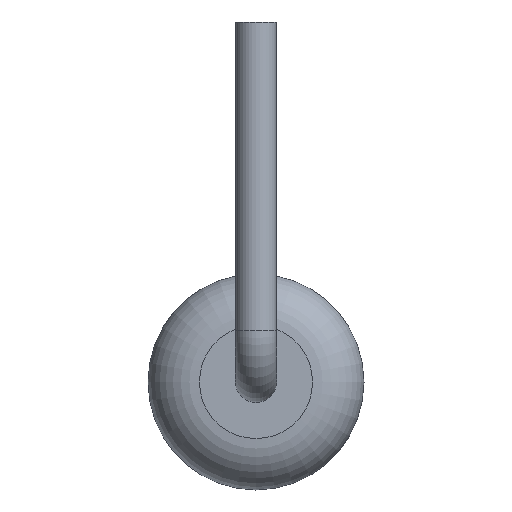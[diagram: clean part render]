
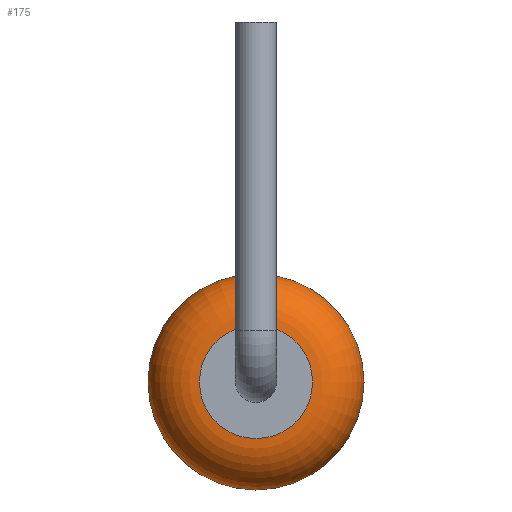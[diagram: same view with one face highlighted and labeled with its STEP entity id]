
A CAD part, left-side view. The second image highlights one B-rep face of the part: STEP entity #175.
In plain terms, the highlighted toroidal (fillet/blend) face has major radius 1.1 mm and minor radius 1 mm.
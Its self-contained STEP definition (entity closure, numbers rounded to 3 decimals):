
#175=ADVANCED_FACE('',(#344,#346),#348,.T.);
#344=FACE_OUTER_BOUND('',#345,.T.);
#345=EDGE_LOOP('',(#421));
#346=FACE_OUTER_BOUND('',#347,.T.);
#347=EDGE_LOOP('',(#422));
#348=TOROIDAL_SURFACE('',#349,1.1,1.);
#349=AXIS2_PLACEMENT_3D('',#350,#351,#352);
#350=CARTESIAN_POINT('',(-4.1,0.,0.));
#351=DIRECTION('',(-1.,0.,0.));
#352=DIRECTION('',(0.,0.,1.));
#421=ORIENTED_EDGE('',*,*,#444,.T.);
#422=ORIENTED_EDGE('',*,*,#445,.F.);
#444=EDGE_CURVE('',#474,#474,#475,.T.);
#445=EDGE_CURVE('',#476,#476,#477,.T.);
#474=VERTEX_POINT('',#546);
#475=CIRCLE('',#547,2.1);
#476=VERTEX_POINT('',#551);
#477=CIRCLE('',#552,1.1);
#546=CARTESIAN_POINT('',(-4.1,0.,2.1));
#547=AXIS2_PLACEMENT_3D('',#548,#549,#550);
#548=CARTESIAN_POINT('',(-4.1,0.,0.));
#549=DIRECTION('',(-1.,0.,0.));
#550=DIRECTION('',(0.,0.,1.));
#551=CARTESIAN_POINT('',(-5.1,0.,1.1));
#552=AXIS2_PLACEMENT_3D('',#553,#554,#555);
#553=CARTESIAN_POINT('',(-5.1,0.,0.));
#554=DIRECTION('',(-1.,0.,0.));
#555=DIRECTION('',(0.,0.,1.));
